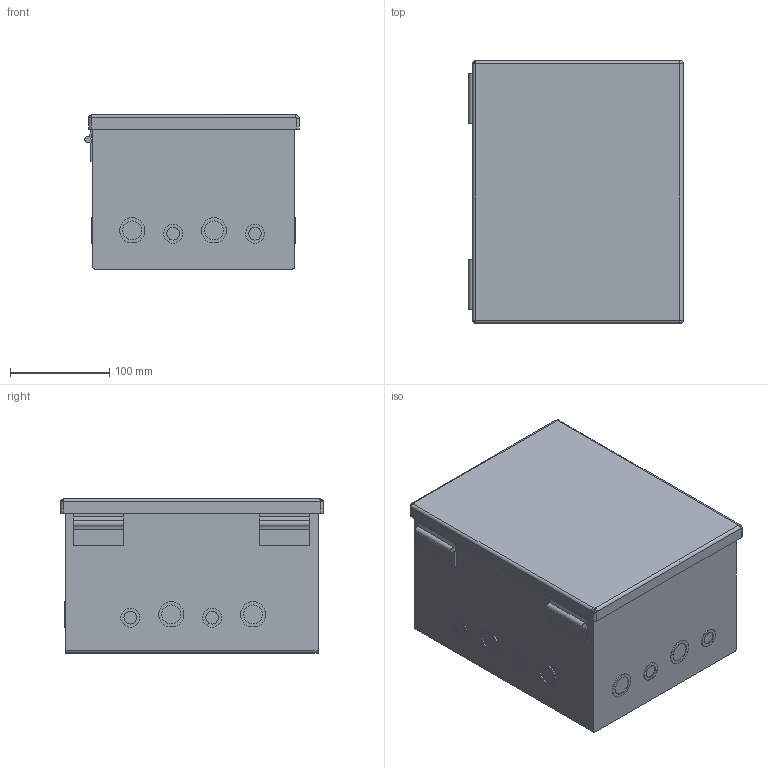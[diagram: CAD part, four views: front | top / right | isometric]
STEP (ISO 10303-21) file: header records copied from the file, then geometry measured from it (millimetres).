
FILE_DESCRIPTION((''),'1');
FILE_NAME('14','2001-04-17T',('jlue'),(''),'PRO/ENGINEER BY PARAMETRIC TECHNOLOGY CORPORATION, 9846','PRO/ENGINEER BY PARAMETRIC TECHNOLOGY CORPORATION, 9846','');
FILE_SCHEMA(('CONFIG_CONTROL_DESIGN'));
Length unit declared in the file: inch
Products named in the file (1): 14
Bounding box: 215.49 x 263.8 x 154.93 mm (x, y, z)
Surface area: 540584.5 mm2 (no closed solid volume)
Topology: 0 solids, 0 shells, 199 faces, 978 edges, 1015 vertices
Faces by surface type: cylinder 92, plane 91, torus 8, cone 4, bspline 2, sphere 2
Entity records: 5159 total; most frequent: DIRECTION 1108, COMPOSITE_CURVE_SEGMENT 912, CARTESIAN_POINT 746, TRIMMED_CURVE 501, AXIS2_PLACEMENT_3D 410, VECTOR 288, LINE 288, CIRCLE 213
